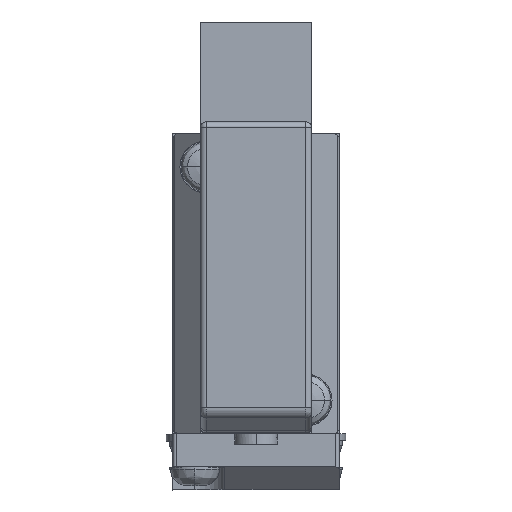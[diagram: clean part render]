
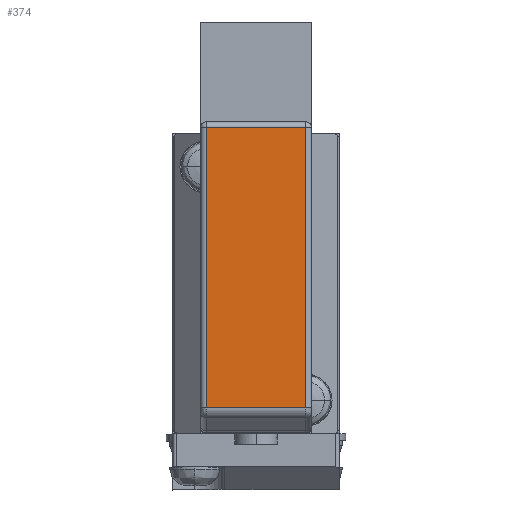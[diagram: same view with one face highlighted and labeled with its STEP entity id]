
A CAD part, top view. The second image highlights one B-rep face of the part: STEP entity #374.
In plain terms, the highlighted planar face has unit normal (0, 0, 1).
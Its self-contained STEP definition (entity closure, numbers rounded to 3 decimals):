
#374=ADVANCED_FACE('',(#1652),#1651,.F.);
#1651=PLANE('',#3621);
#1652=FACE_OUTER_BOUND('',#3622,.T.);
#3618=CARTESIAN_POINT('',(5.4,-27.283,27.4));
#3619=DIRECTION('',(0.,0.,-1.));
#3620=DIRECTION('',(-1.,0.,0.));
#3621=AXIS2_PLACEMENT_3D('',#3618,#3619,#3620);
#3622=EDGE_LOOP('',(#5103,#5104,#5105,#5106));
#5103=ORIENTED_EDGE('',*,*,#6024,.T.);
#5104=ORIENTED_EDGE('',*,*,#5988,.T.);
#5105=ORIENTED_EDGE('',*,*,#6025,.F.);
#5106=ORIENTED_EDGE('',*,*,#6009,.T.);
#5988=EDGE_CURVE('',#8038,#8051,#8058,.T.);
#6009=EDGE_CURVE('',#8169,#8189,#8196,.T.);
#6024=EDGE_CURVE('',#8189,#8038,#8291,.T.);
#6025=EDGE_CURVE('',#8169,#8051,#8297,.T.);
#8038=VERTEX_POINT('',#11244);
#8051=VERTEX_POINT('',#11253);
#8058=LINE('',#11258,#11259);
#8169=VERTEX_POINT('',#11330);
#8189=VERTEX_POINT('',#11344);
#8196=LINE('',#11349,#11350);
#8291=LINE('',#11402,#11403);
#8297=LINE('',#11405,#11406);
#11244=CARTESIAN_POINT('',(-4.5,0.5,27.4));
#11253=CARTESIAN_POINT('',(-4.5,-24.758,27.4));
#11258=CARTESIAN_POINT('',(-4.5,0.5,27.4));
#11259=VECTOR('',#11260,25.258);
#11260=DIRECTION('',(0.,-1.,0.));
#11330=CARTESIAN_POINT('',(4.5,-24.758,27.4));
#11344=CARTESIAN_POINT('',(4.5,0.5,27.4));
#11349=CARTESIAN_POINT('',(4.5,-24.758,27.4));
#11350=VECTOR('',#11351,25.258);
#11351=DIRECTION('',(0.,1.,0.));
#11402=CARTESIAN_POINT('',(4.5,0.5,27.4));
#11403=VECTOR('',#11404,9.);
#11404=DIRECTION('',(-1.,0.,0.));
#11405=CARTESIAN_POINT('',(4.5,-24.758,27.4));
#11406=VECTOR('',#11407,9.);
#11407=DIRECTION('',(-1.,0.,0.));
